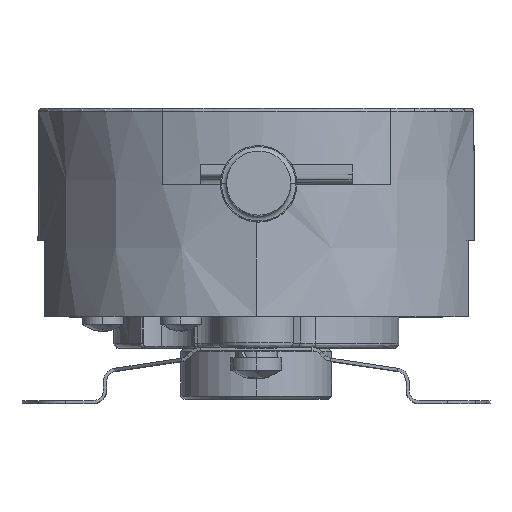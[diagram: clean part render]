
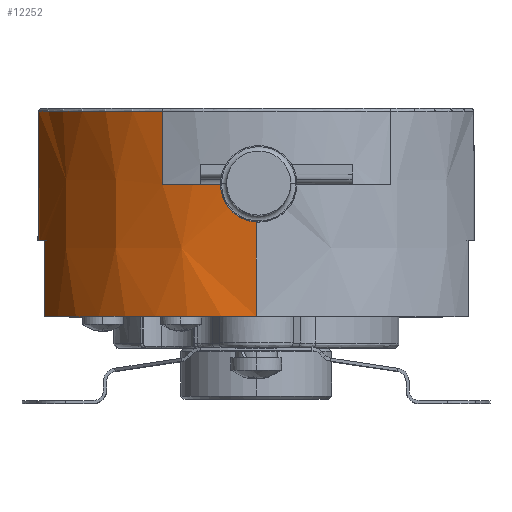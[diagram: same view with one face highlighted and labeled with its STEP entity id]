
A CAD part, top view. The second image highlights one B-rep face of the part: STEP entity #12252.
In plain terms, the highlighted conical face has half-angle 0.3 degrees and reference radius 21.8 mm.
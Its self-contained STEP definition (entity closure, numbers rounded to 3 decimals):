
#27 = CARTESIAN_POINT ( 'NONE',  ( -57.606, 25.795, 19.807 ) ) ;
#234 = VERTEX_POINT ( 'NONE', #27 ) ;
#321 = B_SPLINE_CURVE_WITH_KNOTS ( 'NONE', 3,
 ( #37692, #25153, #25535, #22261 ),
 .UNSPECIFIED., .F., .F.,
 ( 4, 4 ),
 ( 0., 0.008 ),
 .UNSPECIFIED. ) ;
#1951 = CARTESIAN_POINT ( 'NONE',  ( -69.822, 20.345, 4.422 ) ) ;
#3980 = EDGE_CURVE ( 'NONE', #30759, #6195, #33820, .T. ) ;
#4822 = CARTESIAN_POINT ( 'NONE',  ( -69.817, 21.328, 4.422 ) ) ;
#5088 = EDGE_CURVE ( 'NONE', #24193, #6937, #8817, .T. ) ;
#5386 = ORIENTED_EDGE ( 'NONE', *, *, #34248, .F. ) ;
#5746 = DIRECTION ( 'NONE',  ( 0., 0., -1. ) ) ;
#5798 = DIRECTION ( 'NONE',  ( 0., 0., -1. ) ) ;
#6195 = VERTEX_POINT ( 'NONE', #28231 ) ;
#6904 = CIRCLE ( 'NONE', #10772, 21.907 ) ;
#6926 = CARTESIAN_POINT ( 'NONE',  ( -48.406, 12.845, 0. ) ) ;
#6937 = VERTEX_POINT ( 'NONE', #35167 ) ;
#8039 = CARTESIAN_POINT ( 'NONE',  ( -57.606, 32.996, 19.765 ) ) ;
#8243 = DIRECTION ( 'NONE',  ( 0., -1., 0. ) ) ;
#8534 = DIRECTION ( 'NONE',  ( 0., -1., 0. ) ) ;
#8817 = LINE ( 'NONE', #27638, #35141 ) ;
#8976 = FACE_OUTER_BOUND ( 'NONE', #29318, .T. ) ;
#10706 = CARTESIAN_POINT ( 'NONE',  ( -69.822, 20.345, 4.422 ) ) ;
#10772 = AXIS2_PLACEMENT_3D ( 'NONE', #6926, #18849, #27550 ) ;
#11183 = CARTESIAN_POINT ( 'NONE',  ( -48.406, 25.795, 0. ) ) ;
#11392 = CARTESIAN_POINT ( 'NONE',  ( -69.812, 22.311, 4.421 ) ) ;
#11811 = CIRCLE ( 'NONE', #32208, 21.868 ) ;
#12252 = ADVANCED_FACE ( 'NONE', ( #8976 ), #20206, .T. ) ;
#12474 = EDGE_CURVE ( 'NONE', #27273, #15215, #21307, .T. ) ;
#13439 = AXIS2_PLACEMENT_3D ( 'NONE', #11183, #20588, #23506 ) ;
#13476 = CARTESIAN_POINT ( 'NONE',  ( -69.231, 12.845, 6.799 ) ) ;
#15101 = EDGE_CURVE ( 'NONE', #6937, #15215, #6904, .T. ) ;
#15215 = VERTEX_POINT ( 'NONE', #16340 ) ;
#15236 = DIRECTION ( 'NONE',  ( 0., -1., 0. ) ) ;
#16340 = CARTESIAN_POINT ( 'NONE',  ( -69.231, 12.845, 6.799 ) ) ;
#16930 = AXIS2_PLACEMENT_3D ( 'NONE', #26460, #8243, #29243 ) ;
#17053 = CARTESIAN_POINT ( 'NONE',  ( -48.406, 25.795, 21.839 ) ) ;
#17408 = CARTESIAN_POINT ( 'NONE',  ( -48.406, 20.345, 0. ) ) ;
#18849 = DIRECTION ( 'NONE',  ( 0., -1., 0. ) ) ;
#19074 = CARTESIAN_POINT ( 'NONE',  ( -69.205, 17.845, 6.796 ) ) ;
#19219 = ORIENTED_EDGE ( 'NONE', *, *, #24513, .T. ) ;
#19804 = EDGE_CURVE ( 'NONE', #24193, #234, #38136, .T. ) ;
#20166 = CARTESIAN_POINT ( 'NONE',  ( -69.807, 23.295, 4.42 ) ) ;
#20206 = CONICAL_SURFACE ( 'NONE', #16930, 21.8, 0.005 ) ;
#20291 = CARTESIAN_POINT ( 'NONE',  ( -69.779, 28.628, 4.417 ) ) ;
#20588 = DIRECTION ( 'NONE',  ( 0., -1., 0. ) ) ;
#21258 = CARTESIAN_POINT ( 'NONE',  ( -48.406, 32.996, 0. ) ) ;
#21307 = B_SPLINE_CURVE_WITH_KNOTS ( 'NONE', 3,
 ( #25366, #19074, #31486, #13476 ),
 .UNSPECIFIED., .F., .F.,
 ( 4, 4 ),
 ( 0., 0.008 ),
 .UNSPECIFIED. ) ;
#22261 = CARTESIAN_POINT ( 'NONE',  ( -57.606, 25.795, 19.807 ) ) ;
#22677 = CARTESIAN_POINT ( 'NONE',  ( -69.756, 32.996, 4.413 ) ) ;
#23464 = ORIENTED_EDGE ( 'NONE', *, *, #3980, .T. ) ;
#23490 = ORIENTED_EDGE ( 'NONE', *, *, #12474, .T. ) ;
#23506 = DIRECTION ( 'NONE',  ( 0., 0., -1. ) ) ;
#24193 = VERTEX_POINT ( 'NONE', #17053 ) ;
#24513 = EDGE_CURVE ( 'NONE', #6195, #24903, #26729, .T. ) ;
#24903 = VERTEX_POINT ( 'NONE', #10706 ) ;
#25129 = ORIENTED_EDGE ( 'NONE', *, *, #5088, .F. ) ;
#25153 = CARTESIAN_POINT ( 'NONE',  ( -57.606, 30.596, 19.779 ) ) ;
#25174 = CARTESIAN_POINT ( 'NONE',  ( -69.759, 32.429, 4.414 ) ) ;
#25366 = CARTESIAN_POINT ( 'NONE',  ( -69.192, 20.345, 6.794 ) ) ;
#25535 = CARTESIAN_POINT ( 'NONE',  ( -57.606, 28.195, 19.793 ) ) ;
#25948 = CARTESIAN_POINT ( 'NONE',  ( -69.765, 31.295, 4.415 ) ) ;
#26460 = CARTESIAN_POINT ( 'NONE',  ( -48.406, 33.295, 0. ) ) ;
#26729 = B_SPLINE_CURVE_WITH_KNOTS ( 'NONE', 3,
 ( #22677, #25174, #38219, #25948, #20291, #32188, #20166, #11392, #4822, #1951 ),
 .UNSPECIFIED., .F., .F.,
 ( 4, 3, 3, 4 ),
 ( 0., 0.002, 0.01, 0.013 ),
 .UNSPECIFIED. ) ;
#26892 = AXIS2_PLACEMENT_3D ( 'NONE', #21258, #15236, #5798 ) ;
#27273 = VERTEX_POINT ( 'NONE', #29413 ) ;
#27550 = DIRECTION ( 'NONE',  ( 0., 0., -1. ) ) ;
#27638 = CARTESIAN_POINT ( 'NONE',  ( -48.406, 33.295, 21.8 ) ) ;
#28231 = CARTESIAN_POINT ( 'NONE',  ( -69.756, 32.996, 4.413 ) ) ;
#29243 = DIRECTION ( 'NONE',  ( 0., 0., 1. ) ) ;
#29318 = EDGE_LOOP ( 'NONE', ( #25129, #33845, #34979, #23464, #19219, #5386, #23490, #37277 ) ) ;
#29413 = CARTESIAN_POINT ( 'NONE',  ( -69.192, 20.345, 6.794 ) ) ;
#30759 = VERTEX_POINT ( 'NONE', #8039 ) ;
#31486 = CARTESIAN_POINT ( 'NONE',  ( -69.218, 15.345, 6.798 ) ) ;
#32188 = CARTESIAN_POINT ( 'NONE',  ( -69.793, 25.961, 4.418 ) ) ;
#32208 = AXIS2_PLACEMENT_3D ( 'NONE', #17408, #8534, #5746 ) ;
#33820 = CIRCLE ( 'NONE', #26892, 21.802 ) ;
#33845 = ORIENTED_EDGE ( 'NONE', *, *, #19804, .T. ) ;
#34248 = EDGE_CURVE ( 'NONE', #27273, #24903, #11811, .T. ) ;
#34594 = EDGE_CURVE ( 'NONE', #30759, #234, #321, .T. ) ;
#34979 = ORIENTED_EDGE ( 'NONE', *, *, #34594, .F. ) ;
#35141 = VECTOR ( 'NONE', #36320, 1000. ) ;
#35167 = CARTESIAN_POINT ( 'NONE',  ( -48.406, 12.845, 21.907 ) ) ;
#36320 = DIRECTION ( 'NONE',  ( 0., -1., 0.005 ) ) ;
#37277 = ORIENTED_EDGE ( 'NONE', *, *, #15101, .F. ) ;
#37692 = CARTESIAN_POINT ( 'NONE',  ( -57.606, 32.996, 19.765 ) ) ;
#38136 = CIRCLE ( 'NONE', #13439, 21.839 ) ;
#38219 = CARTESIAN_POINT ( 'NONE',  ( -69.762, 31.862, 4.414 ) ) ;
